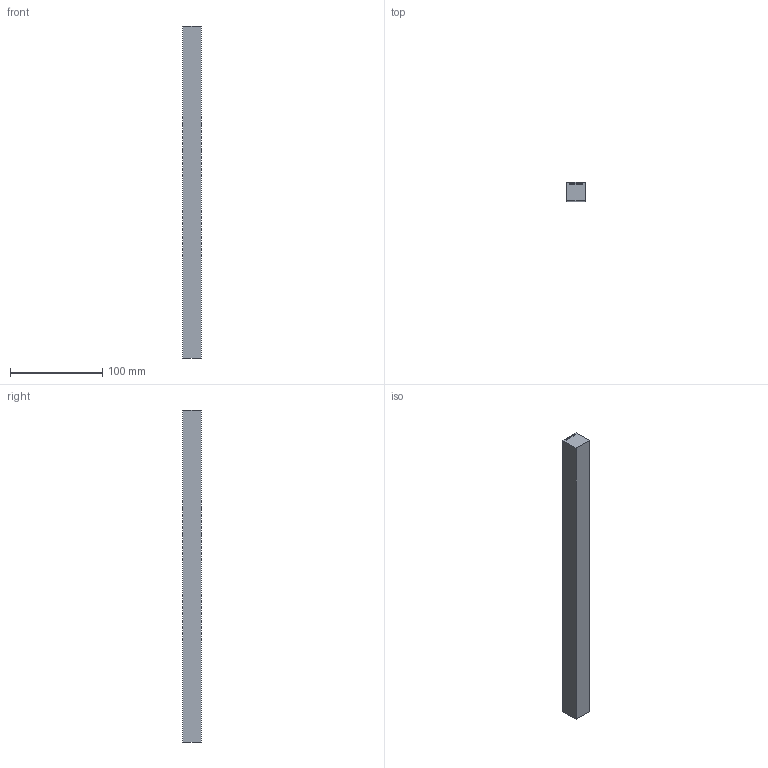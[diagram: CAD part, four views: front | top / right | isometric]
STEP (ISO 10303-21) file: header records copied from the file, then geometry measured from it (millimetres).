
FILE_DESCRIPTION (( 'STEP AP214' ), '1' );
FILE_NAME ('36.STEP', '2018-03-02T14:48:48', ( 'Utente' ), ( '' ), 'SwSTEP 2.0', 'SolidWorks 2016', '' );
FILE_SCHEMA (( 'AUTOMOTIVE_DESIGN' ));
Length unit declared in the file: millimetre
Products named in the file (3): schermo tru sospesaMARTI-1^36; profili - spigoloMARTI-1^36; 36
Assembly tree (2 placements, depth 2):
  36
    profili - spigoloMARTI-1^36
    schermo tru sospesaMARTI-1^36
Bounding box: 20 x 20 x 360 mm (x, y, z)
Volume: 139032 mm3; surface area: 42072.5 mm2
Topology: 2 solids, 2 shells, 18 faces, 42 edges, 28 vertices
Faces by surface type: plane 18
Entity records: 616 total; most frequent: CARTESIAN_POINT 93, DIRECTION 88, ORIENTED_EDGE 84, EDGE_CURVE 42, VECTOR 42, LINE 42, VERTEX_POINT 28, AXIS2_PLACEMENT_3D 23
